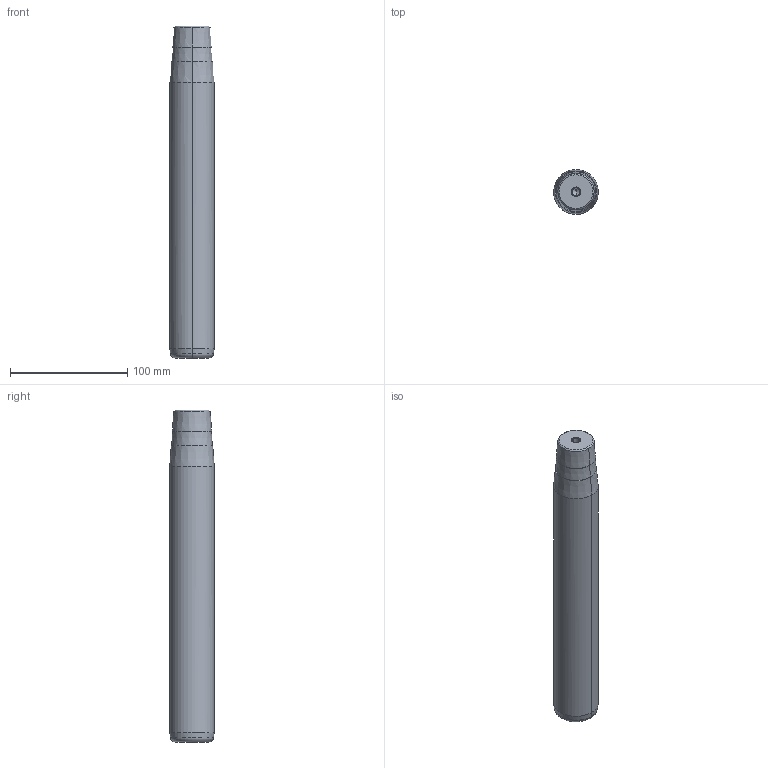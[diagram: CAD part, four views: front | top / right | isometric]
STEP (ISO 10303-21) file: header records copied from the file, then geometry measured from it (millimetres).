
FILE_DESCRIPTION(('CATIA V5 STEP Exchange'),'2;1');
FILE_NAME('C:\Users\Utente\Desktop\IO LAVORO\3D X SITO CF\X SITO\722\722-38x250x283.stp','2021-01-08T16:01:40+00:00',('none'),('none'),'CATIA Version 5 Release 20 GA (IN-10)','CATIA V5 STEP AP203','none');
FILE_SCHEMA(('CONFIG_CONTROL_DESIGN'));
Length unit declared in the file: millimetre
Products named in the file (1): 722-38x250x283
Bounding box: 38 x 38 x 283 mm (x, y, z)
Volume: 308206.4 mm3; surface area: 35912.2 mm2
Topology: 1 solids, 1 shells, 32 faces, 98 edges, 66 vertices
Faces by surface type: cone 22, cylinder 6, plane 2, torus 2
Entity records: 1166 total; most frequent: CARTESIAN_POINT 279, ORIENTED_EDGE 188, DIRECTION 148, EDGE_CURVE 94, AXIS2_PLACEMENT_3D 89, VERTEX_POINT 66, CIRCLE 56, EDGE_LOOP 34
